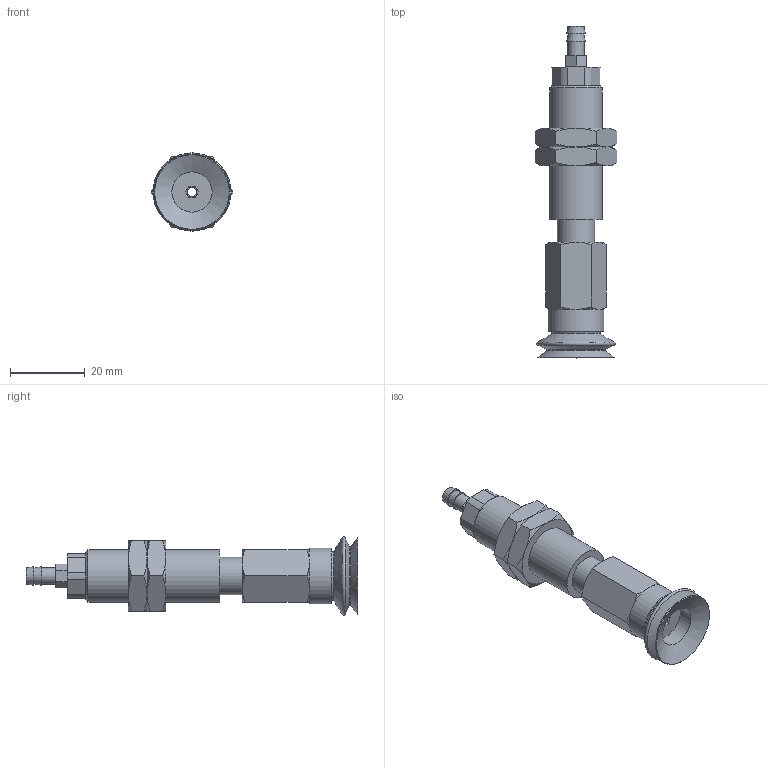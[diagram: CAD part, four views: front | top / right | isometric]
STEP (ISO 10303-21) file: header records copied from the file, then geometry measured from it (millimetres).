
FILE_DESCRIPTION(('STEP AP203'),'1');
FILE_NAME('-T.stp','2025-08-27T07:39:36',(' '),(' '),'Spatial InterOp 3D',' ',' ');
FILE_SCHEMA(('CONFIG_CONTROL_DESIGN'));
Length unit declared in the file: millimetre
Products named in the file (8): BNABPJTS-20-6-※-T; ADAPTER; NAPBTS-20-6--M; Adapter-20-NAPJ; NUT-NAPJ-20-6-s; NAPJTS-20-6-FBODY; BPJG-20-※; T
Assembly tree (8 placements, depth 2):
  BNABPJTS-20-6-※-T
    ADAPTER
    NAPBTS-20-6--M
    Adapter-20-NAPJ
    NUT-NAPJ-20-6-s  x2
    NAPJTS-20-6-FBODY
    BPJG-20-※
    T
Bounding box: 21.94 x 89 x 21 mm (x, y, z)
Volume: 12985.1 mm3; surface area: 10771.7 mm2
Topology: 8 solids, 8 shells, 145 faces, 307 edges, 188 vertices
Faces by surface type: plane 62, cone 52, cylinder 24, torus 7
Full cylindrical faces by diameter (mm): 2.5 x1, 3 x3, 4.134 x2, 4.3 x1, 4.6 x1, 5 x2, 10 x2, 10.8 x1, 11 x1, 13.188 x2, 14 x1, 15 x1
Entity records: 3670 total; most frequent: CARTESIAN_POINT 833, DIRECTION 520, ORIENTED_EDGE 426, AXIS2_PLACEMENT_3D 224, EDGE_CURVE 213, EDGE_LOOP 184, VERTEX_POINT 153, FACE_OUTER_BOUND 146
